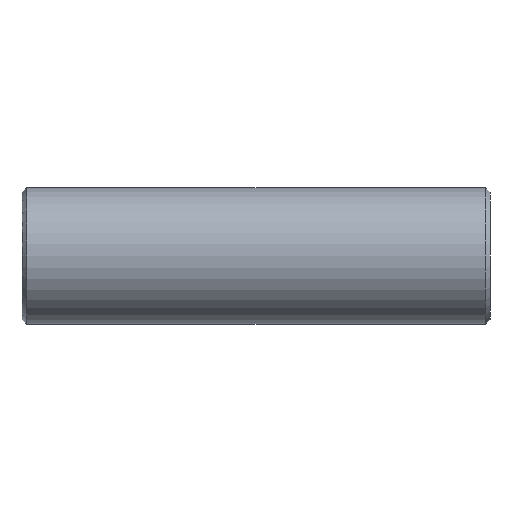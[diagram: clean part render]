
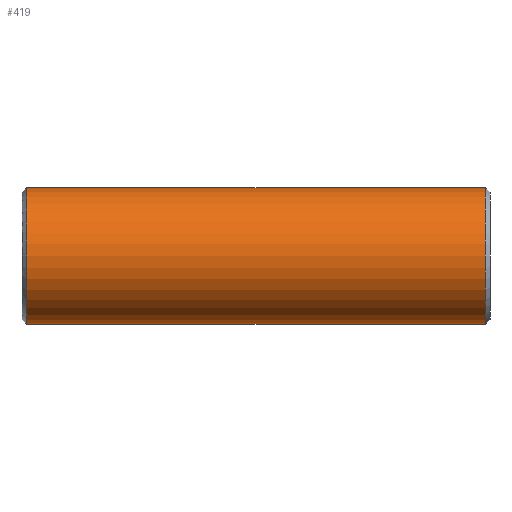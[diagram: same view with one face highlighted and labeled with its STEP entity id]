
A CAD part, front view. The second image highlights one B-rep face of the part: STEP entity #419.
In plain terms, the highlighted cylindrical face has radius 14 mm (diameter 28 mm), a partial arc.
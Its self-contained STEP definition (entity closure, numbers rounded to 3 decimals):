
#231=CARTESIAN_POINT('Vertex',(1.,0.,-14.)) ;
#238=CARTESIAN_POINT('Vertex',(1.,0.,14.)) ;
#267=CARTESIAN_POINT('Axis2P3D Location',(1.,0.,0.)) ;
#271=CARTESIAN_POINT('Vertex',(1.,-14.,0.)) ;
#274=CARTESIAN_POINT('Axis2P3D Location',(1.,0.,0.)) ;
#359=CARTESIAN_POINT('Line Origine',(96.,0.,14.)) ;
#363=CARTESIAN_POINT('Vertex',(95.,0.,14.)) ;
#377=CARTESIAN_POINT('Vertex',(95.,0.,-14.)) ;
#380=CARTESIAN_POINT('Line Origine',(96.,0.,-14.)) ;
#394=CARTESIAN_POINT('Axis2P3D Location',(96.,0.,0.)) ;
#399=CARTESIAN_POINT('Axis2P3D Location',(95.,0.,0.)) ;
#403=CARTESIAN_POINT('Vertex',(95.,-14.,0.)) ;
#406=CARTESIAN_POINT('Axis2P3D Location',(95.,0.,0.)) ;
#268=DIRECTION('Axis2P3D Direction',(1.,0.,-0.)) ;
#275=DIRECTION('Axis2P3D Direction',(1.,0.,-0.)) ;
#360=DIRECTION('Vector Direction',(-1.,0.,0.)) ;
#381=DIRECTION('Vector Direction',(-1.,0.,0.)) ;
#395=DIRECTION('Axis2P3D Direction',(-1.,-0.,-0.)) ;
#396=DIRECTION('Axis2P3D XDirection',(0.,0.,-1.)) ;
#400=DIRECTION('Axis2P3D Direction',(-1.,-0.,-0.)) ;
#407=DIRECTION('Axis2P3D Direction',(-1.,-0.,-0.)) ;
#269=AXIS2_PLACEMENT_3D('Circle Axis2P3D',#267,#268,$) ;
#276=AXIS2_PLACEMENT_3D('Circle Axis2P3D',#274,#275,$) ;
#397=AXIS2_PLACEMENT_3D('Cylinder Axis2P3D',#394,#395,#396) ;
#401=AXIS2_PLACEMENT_3D('Circle Axis2P3D',#399,#400,$) ;
#408=AXIS2_PLACEMENT_3D('Circle Axis2P3D',#406,#407,$) ;
#412=ORIENTED_EDGE('',*,*,#384,.T.) ;
#413=ORIENTED_EDGE('',*,*,#405,.F.) ;
#414=ORIENTED_EDGE('',*,*,#410,.F.) ;
#415=ORIENTED_EDGE('',*,*,#365,.T.) ;
#416=ORIENTED_EDGE('',*,*,#278,.T.) ;
#417=ORIENTED_EDGE('',*,*,#273,.T.) ;
#361=VECTOR('Line Direction',#360,1.) ;
#382=VECTOR('Line Direction',#381,1.) ;
#419=ADVANCED_FACE('352-20X96',(#418),#398,.T.) ;
#270=CIRCLE('generated circle',#269,14.) ;
#277=CIRCLE('generated circle',#276,14.) ;
#402=CIRCLE('generated circle',#401,14.) ;
#409=CIRCLE('generated circle',#408,14.) ;
#398=CYLINDRICAL_SURFACE('generated cylinder',#397,14.) ;
#273=EDGE_CURVE('',#272,#232,#270,.T.) ;
#278=EDGE_CURVE('',#239,#272,#277,.T.) ;
#365=EDGE_CURVE('',#364,#239,#362,.T.) ;
#384=EDGE_CURVE('',#232,#378,#383,.F.) ;
#405=EDGE_CURVE('',#404,#378,#402,.F.) ;
#410=EDGE_CURVE('',#364,#404,#409,.F.) ;
#411=EDGE_LOOP('',(#412,#413,#414,#415,#416,#417)) ;
#418=FACE_OUTER_BOUND('',#411,.T.) ;
#362=LINE('Line',#359,#361) ;
#383=LINE('Line',#380,#382) ;
#232=VERTEX_POINT('',#231) ;
#239=VERTEX_POINT('',#238) ;
#272=VERTEX_POINT('',#271) ;
#364=VERTEX_POINT('',#363) ;
#378=VERTEX_POINT('',#377) ;
#404=VERTEX_POINT('',#403) ;
